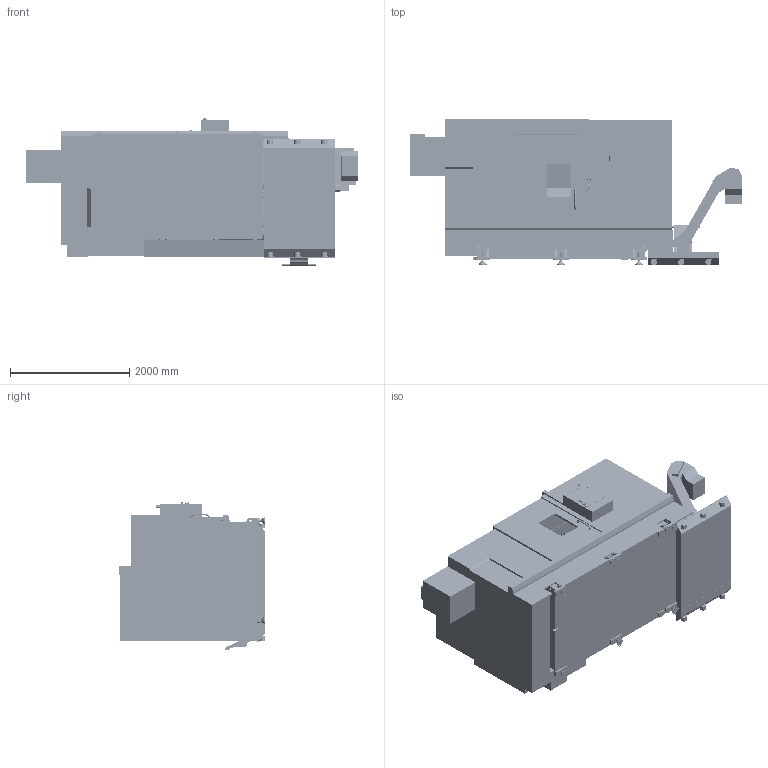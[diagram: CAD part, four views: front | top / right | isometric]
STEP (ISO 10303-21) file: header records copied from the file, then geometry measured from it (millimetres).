
FILE_DESCRIPTION (( 'STEP AP203' ), '1' );
FILE_NAME ('ST-5SY_2_2026.STEP', '2026-02-05T20:33:18', ( '' ), ( '' ), 'SwSTEP 2.0', 'SolidWorks 2023', '' );
FILE_SCHEMA (( 'CONFIG_CONTROL_DESIGN' ));
Length unit declared in the file: inch
Products named in the file (22): ST-55SY- BMT75_Live_Tool_Kit; ST-55SY- Steady Rest; ST-5SY_2_2026; ST-55SY- Live Center; ST-55SY- BMT75- Inch 24 Station Tool Kit; ST-55SY- Leveling Pads; ST-55SY- BMT75-Metric 24 Station Tool Kit; ST-55SY- BMT75-Turret; ST-55SY- Base Casting; ST-55SY- X - Axis Turret Housing; ST-55SY- Belt- Style Chip Conveyor; ST-55SY- Y-Axis Wedge; ST-55SY- Anchor Pattern; ST-55SY- Spindle Assembly; ST-55SY- Control Panel; ST-55SY- Z-Y Axis Wedge; ST-55SY- BMT75- Metric Tool Kit; ST-55SY- Door; ST-55SY- Enclosure; ST-55SY- 95 Gallon Tank; ST-55SY- Tail Stock; ST-55SY- BMT75- Inch Tool Kit
Assembly tree (21 placements, depth 2):
  ST-5SY_2_2026
    ST-55SY- Anchor Pattern
    ST-55SY- Leveling Pads
    ST-55SY- Base Casting
    ST-55SY- Spindle Assembly
    ST-55SY- Tail Stock
    ST-55SY- Live Center
    ST-55SY- Steady Rest
    ST-55SY- Z-Y Axis Wedge
    ST-55SY- Y-Axis Wedge
    ST-55SY- X - Axis Turret Housing
    ST-55SY- BMT75-Turret
    ST-55SY- BMT75- Inch Tool Kit
    ST-55SY- BMT75- Metric Tool Kit
    ST-55SY- BMT75- Inch 24 Station Tool Kit
    ST-55SY- BMT75-Metric 24 Station Tool Kit
    ST-55SY- BMT75_Live_Tool_Kit
    ST-55SY- Enclosure
    ST-55SY- Door
    ST-55SY- Control Panel
    ST-55SY- Belt- Style Chip Conveyor
    ST-55SY- 95 Gallon Tank
Bounding box: 5571.93 x 2459.02 x 2494.61 mm (x, y, z)
Volume: 7582518393.9 mm3; surface area: 147998793.8 mm2
Topology: 108 solids, 111 shells, 11780 faces, 30530 edges, 19450 vertices
Faces by surface type: plane 5579, cylinder 2960, cone 1885, bspline 1193, torus 146, sphere 17
Entity records: 423207 total; most frequent: CARTESIAN_POINT 142272, ORIENTED_EDGE 60234, DIRECTION 53916, EDGE_CURVE 30117, VERTEX_POINT 19445, VECTOR 18056, LINE 18056, AXIS2_PLACEMENT_3D 17930
